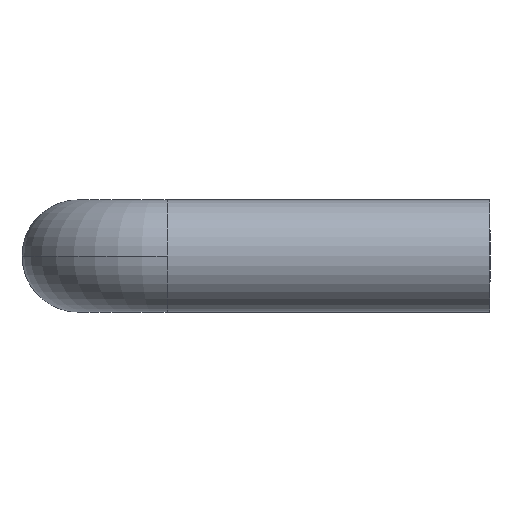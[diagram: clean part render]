
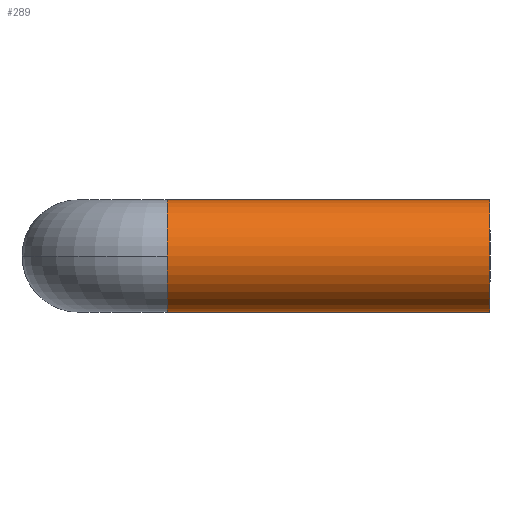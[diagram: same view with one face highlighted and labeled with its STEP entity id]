
A CAD part, left-side view. The second image highlights one B-rep face of the part: STEP entity #289.
In plain terms, the highlighted cylindrical face has radius 6 mm (diameter 12 mm), a partial arc.
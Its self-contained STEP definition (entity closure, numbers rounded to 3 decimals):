
#4 = VERTEX_POINT ( 'NONE', #54 ) ;
#11 = VERTEX_POINT ( 'NONE', #107 ) ;
#17 = VERTEX_POINT ( 'NONE', #78 ) ;
#24 = VERTEX_POINT ( 'NONE', #108 ) ;
#28 = VERTEX_POINT ( 'NONE', #80 ) ;
#44 = ORIENTED_EDGE ( 'NONE', *, *, #206, .T. ) ;
#45 = ORIENTED_EDGE ( 'NONE', *, *, #195, .T. ) ;
#46 = ORIENTED_EDGE ( 'NONE', *, *, #179, .F. ) ;
#47 = ORIENTED_EDGE ( 'NONE', *, *, #205, .F. ) ;
#48 = ORIENTED_EDGE ( 'NONE', *, *, #193, .F. ) ;
#54 = CARTESIAN_POINT ( 'NONE',  ( -75., -44., -6. ) ) ;
#57 = DIRECTION ( 'NONE',  ( -1., 0., 0. ) ) ;
#72 = DIRECTION ( 'NONE',  ( 0., 1., 0. ) ) ;
#75 = CARTESIAN_POINT ( 'NONE',  ( -75., -9.5, 0. ) ) ;
#78 = CARTESIAN_POINT ( 'NONE',  ( -75., -9.5, 6. ) ) ;
#80 = CARTESIAN_POINT ( 'NONE',  ( -81., -9.5, 0. ) ) ;
#107 = CARTESIAN_POINT ( 'NONE',  ( -75., -44., 6. ) ) ;
#108 = CARTESIAN_POINT ( 'NONE',  ( -75., -9.5, -6. ) ) ;
#120 = AXIS2_PLACEMENT_3D ( 'NONE', #75, #72, #57 ) ;
#136 = AXIS2_PLACEMENT_3D ( 'NONE', #424, #425, #426 ) ;
#137 = AXIS2_PLACEMENT_3D ( 'NONE', #427, #428, #429 ) ;
#157 = AXIS2_PLACEMENT_3D ( 'NONE', #483, #484, #481 ) ;
#179 = EDGE_CURVE ( 'NONE', #24, #28, #301, .T. ) ;
#193 = EDGE_CURVE ( 'NONE', #17, #11, #322, .T. ) ;
#195 = EDGE_CURVE ( 'NONE', #24, #4, #325, .T. ) ;
#205 = EDGE_CURVE ( 'NONE', #28, #17, #340, .T. ) ;
#206 = EDGE_CURVE ( 'NONE', #4, #11, #341, .T. ) ;
#241 = EDGE_LOOP ( 'NONE', ( #48, #47, #46, #45, #44 ) ) ;
#289 = ADVANCED_FACE ( 'NONE', ( #373 ), #375, .T. ) ;
#301 = CIRCLE ( 'NONE', #120, 6. ) ;
#322 = LINE ( 'NONE', #391, #324 ) ;
#324 = VECTOR ( 'NONE', #387, 1000. ) ;
#325 = LINE ( 'NONE', #397, #327 ) ;
#327 = VECTOR ( 'NONE', #393, 1000. ) ;
#340 = CIRCLE ( 'NONE', #136, 6. ) ;
#341 = CIRCLE ( 'NONE', #137, 6. ) ;
#373 = FACE_OUTER_BOUND ( 'NONE', #241, .T. ) ;
#375 = CYLINDRICAL_SURFACE ( 'NONE', #157, 6. ) ;
#387 = DIRECTION ( 'NONE',  ( 0., -1., 0. ) ) ;
#391 = CARTESIAN_POINT ( 'NONE',  ( -75., -9.5, 6. ) ) ;
#393 = DIRECTION ( 'NONE',  ( 0., -1., 0. ) ) ;
#397 = CARTESIAN_POINT ( 'NONE',  ( -75., -9.5, -6. ) ) ;
#424 = CARTESIAN_POINT ( 'NONE',  ( -75., -9.5, 0. ) ) ;
#425 = DIRECTION ( 'NONE',  ( 0., 1., 0. ) ) ;
#426 = DIRECTION ( 'NONE',  ( -1., 0., 0. ) ) ;
#427 = CARTESIAN_POINT ( 'NONE',  ( -75., -44., 0. ) ) ;
#428 = DIRECTION ( 'NONE',  ( 0., 1., 0. ) ) ;
#429 = DIRECTION ( 'NONE',  ( -1., 0., 0. ) ) ;
#481 = DIRECTION ( 'NONE',  ( 0., 0., -1. ) ) ;
#483 = CARTESIAN_POINT ( 'NONE',  ( -75., -9.5, 0. ) ) ;
#484 = DIRECTION ( 'NONE',  ( 0., -1., 0. ) ) ;
